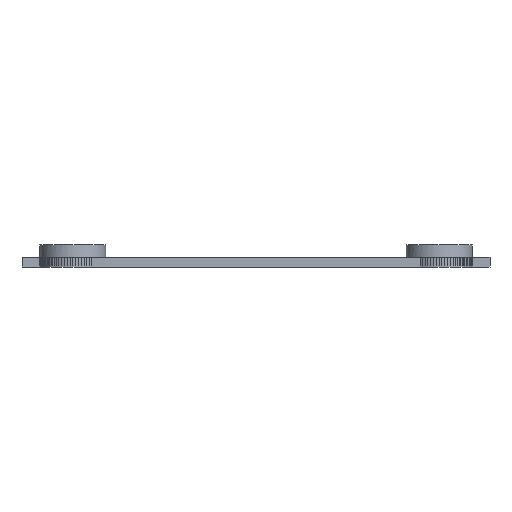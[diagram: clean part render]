
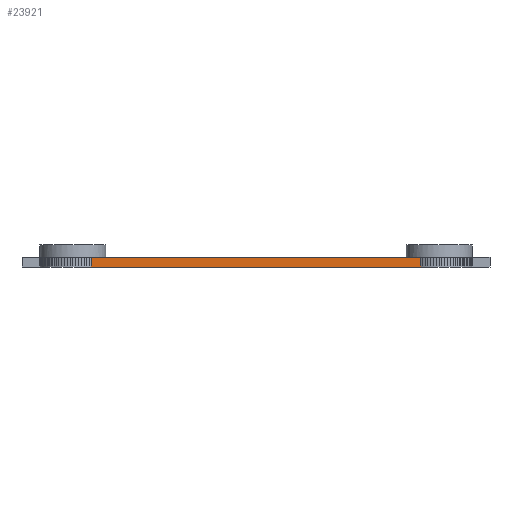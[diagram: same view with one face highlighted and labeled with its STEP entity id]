
A CAD part, left-side view. The second image highlights one B-rep face of the part: STEP entity #23921.
In plain terms, the highlighted planar face has unit normal (-1, 0, 0).
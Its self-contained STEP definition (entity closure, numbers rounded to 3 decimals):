
#72 = PLANE('',#73);
#73 = AXIS2_PLACEMENT_3D('',#74,#75,#76);
#74 = CARTESIAN_POINT('',(0.444,0.,0.35));
#75 = DIRECTION('',(-0.,-0.,-1.));
#76 = DIRECTION('',(-1.,0.,0.));
#154 = PLANE('',#155);
#155 = AXIS2_PLACEMENT_3D('',#156,#157,#158);
#156 = CARTESIAN_POINT('',(0.444,0.,
    0.));
#157 = DIRECTION('',(-0.,-0.,-1.));
#158 = DIRECTION('',(-1.,0.,0.));
#1271 = VERTEX_POINT('',#1272);
#1272 = CARTESIAN_POINT('',(-7.3,-5.988,0.));
#1286 = PLANE('',#1287);
#1287 = AXIS2_PLACEMENT_3D('',#1288,#1289,#1290);
#1288 = CARTESIAN_POINT('',(-7.339,-6.05,0.));
#1289 = DIRECTION('',(-0.843,0.537,0.));
#1290 = DIRECTION('',(0.537,0.843,0.));
#1298 = EDGE_CURVE('',#1271,#1299,#1301,.T.);
#1299 = VERTEX_POINT('',#1300);
#1300 = CARTESIAN_POINT('',(-7.3,5.988,0.));
#1301 = SURFACE_CURVE('',#1302,(#1306,#1313),.PCURVE_S1.);
#1302 = LINE('',#1303,#1304);
#1303 = CARTESIAN_POINT('',(-7.3,-5.988,0.));
#1304 = VECTOR('',#1305,1.);
#1305 = DIRECTION('',(0.,1.,0.));
#1306 = PCURVE('',#154,#1307);
#1307 = DEFINITIONAL_REPRESENTATION('',(#1308),#1312);
#1308 = LINE('',#1309,#1310);
#1309 = CARTESIAN_POINT('',(7.744,-5.988));
#1310 = VECTOR('',#1311,1.);
#1311 = DIRECTION('',(0.,1.));
#1312 = ( GEOMETRIC_REPRESENTATION_CONTEXT(2) 
PARAMETRIC_REPRESENTATION_CONTEXT() REPRESENTATION_CONTEXT('2D SPACE',''
  ) );
#1313 = PCURVE('',#1314,#1319);
#1314 = PLANE('',#1315);
#1315 = AXIS2_PLACEMENT_3D('',#1316,#1317,#1318);
#1316 = CARTESIAN_POINT('',(-7.3,-5.988,0.));
#1317 = DIRECTION('',(-1.,0.,0.));
#1318 = DIRECTION('',(0.,1.,0.));
#1319 = DEFINITIONAL_REPRESENTATION('',(#1320),#1324);
#1320 = LINE('',#1321,#1322);
#1321 = CARTESIAN_POINT('',(0.,0.));
#1322 = VECTOR('',#1323,1.);
#1323 = DIRECTION('',(1.,0.));
#1324 = ( GEOMETRIC_REPRESENTATION_CONTEXT(2) 
PARAMETRIC_REPRESENTATION_CONTEXT() REPRESENTATION_CONTEXT('2D SPACE',''
  ) );
#1342 = PLANE('',#1343);
#1343 = AXIS2_PLACEMENT_3D('',#1344,#1345,#1346);
#1344 = CARTESIAN_POINT('',(-7.3,5.988,0.));
#1345 = DIRECTION('',(-0.843,-0.537,0.));
#1346 = DIRECTION('',(-0.537,0.843,0.));
#14863 = VERTEX_POINT('',#14864);
#14864 = CARTESIAN_POINT('',(-7.3,-5.987,0.35));
#14890 = EDGE_CURVE('',#14863,#14891,#14893,.T.);
#14891 = VERTEX_POINT('',#14892);
#14892 = CARTESIAN_POINT('',(-7.3,5.987,0.35));
#14893 = SURFACE_CURVE('',#14894,(#14898,#14905),.PCURVE_S1.);
#14894 = LINE('',#14895,#14896);
#14895 = CARTESIAN_POINT('',(-7.3,-5.988,0.35));
#14896 = VECTOR('',#14897,1.);
#14897 = DIRECTION('',(0.,1.,0.));
#14898 = PCURVE('',#72,#14899);
#14899 = DEFINITIONAL_REPRESENTATION('',(#14900),#14904);
#14900 = LINE('',#14901,#14902);
#14901 = CARTESIAN_POINT('',(7.744,-5.988));
#14902 = VECTOR('',#14903,1.);
#14903 = DIRECTION('',(0.,1.));
#14904 = ( GEOMETRIC_REPRESENTATION_CONTEXT(2) 
PARAMETRIC_REPRESENTATION_CONTEXT() REPRESENTATION_CONTEXT('2D SPACE',''
  ) );
#14905 = PCURVE('',#1314,#14906);
#14906 = DEFINITIONAL_REPRESENTATION('',(#14907),#14911);
#14907 = LINE('',#14908,#14909);
#14908 = CARTESIAN_POINT('',(0.,-0.35));
#14909 = VECTOR('',#14910,1.);
#14910 = DIRECTION('',(1.,0.));
#14911 = ( GEOMETRIC_REPRESENTATION_CONTEXT(2) 
PARAMETRIC_REPRESENTATION_CONTEXT() REPRESENTATION_CONTEXT('2D SPACE',''
  ) );
#23873 = VERTEX_POINT('',#23874);
#23874 = CARTESIAN_POINT('',(-7.3,-5.988,0.35));
#23888 = PLANE('',#23889);
#23889 = AXIS2_PLACEMENT_3D('',#23890,#23891,#23892);
#23890 = CARTESIAN_POINT('',(-6.3,-6.65,0.35));
#23891 = DIRECTION('',(0.,0.,1.));
#23892 = DIRECTION('',(1.,0.,-0.));
#23900 = EDGE_CURVE('',#1271,#23873,#23901,.T.);
#23901 = SURFACE_CURVE('',#23902,(#23906,#23913),.PCURVE_S1.);
#23902 = LINE('',#23903,#23904);
#23903 = CARTESIAN_POINT('',(-7.3,-5.988,0.));
#23904 = VECTOR('',#23905,1.);
#23905 = DIRECTION('',(0.,0.,1.));
#23906 = PCURVE('',#1286,#23907);
#23907 = DEFINITIONAL_REPRESENTATION('',(#23908),#23912);
#23908 = LINE('',#23909,#23910);
#23909 = CARTESIAN_POINT('',(0.073,0.));
#23910 = VECTOR('',#23911,1.);
#23911 = DIRECTION('',(0.,-1.));
#23912 = ( GEOMETRIC_REPRESENTATION_CONTEXT(2) 
PARAMETRIC_REPRESENTATION_CONTEXT() REPRESENTATION_CONTEXT('2D SPACE',''
  ) );
#23913 = PCURVE('',#1314,#23914);
#23914 = DEFINITIONAL_REPRESENTATION('',(#23915),#23919);
#23915 = LINE('',#23916,#23917);
#23916 = CARTESIAN_POINT('',(0.,0.));
#23917 = VECTOR('',#23918,1.);
#23918 = DIRECTION('',(0.,-1.));
#23919 = ( GEOMETRIC_REPRESENTATION_CONTEXT(2) 
PARAMETRIC_REPRESENTATION_CONTEXT() REPRESENTATION_CONTEXT('2D SPACE',''
  ) );
#23921 = ADVANCED_FACE('',(#23922),#1314,.T.);
#23922 = FACE_BOUND('',#23923,.T.);
#23923 = EDGE_LOOP('',(#23924,#23925,#23946,#23947,#23975,#23996));
#23924 = ORIENTED_EDGE('',*,*,#23900,.T.);
#23925 = ORIENTED_EDGE('',*,*,#23926,.T.);
#23926 = EDGE_CURVE('',#23873,#14863,#23927,.T.);
#23927 = SURFACE_CURVE('',#23928,(#23932,#23939),.PCURVE_S1.);
#23928 = LINE('',#23929,#23930);
#23929 = CARTESIAN_POINT('',(-7.3,-5.988,0.35));
#23930 = VECTOR('',#23931,1.);
#23931 = DIRECTION('',(0.,1.,0.));
#23932 = PCURVE('',#1314,#23933);
#23933 = DEFINITIONAL_REPRESENTATION('',(#23934),#23938);
#23934 = LINE('',#23935,#23936);
#23935 = CARTESIAN_POINT('',(0.,-0.35));
#23936 = VECTOR('',#23937,1.);
#23937 = DIRECTION('',(1.,0.));
#23938 = ( GEOMETRIC_REPRESENTATION_CONTEXT(2) 
PARAMETRIC_REPRESENTATION_CONTEXT() REPRESENTATION_CONTEXT('2D SPACE',''
  ) );
#23939 = PCURVE('',#23888,#23940);
#23940 = DEFINITIONAL_REPRESENTATION('',(#23941),#23945);
#23941 = LINE('',#23942,#23943);
#23942 = CARTESIAN_POINT('',(-1.,0.662));
#23943 = VECTOR('',#23944,1.);
#23944 = DIRECTION('',(0.,1.));
#23945 = ( GEOMETRIC_REPRESENTATION_CONTEXT(2) 
PARAMETRIC_REPRESENTATION_CONTEXT() REPRESENTATION_CONTEXT('2D SPACE',''
  ) );
#23946 = ORIENTED_EDGE('',*,*,#14890,.T.);
#23947 = ORIENTED_EDGE('',*,*,#23948,.T.);
#23948 = EDGE_CURVE('',#14891,#23949,#23951,.T.);
#23949 = VERTEX_POINT('',#23950);
#23950 = CARTESIAN_POINT('',(-7.3,5.988,0.35));
#23951 = SURFACE_CURVE('',#23952,(#23956,#23963),.PCURVE_S1.);
#23952 = LINE('',#23953,#23954);
#23953 = CARTESIAN_POINT('',(-7.3,-5.988,0.35));
#23954 = VECTOR('',#23955,1.);
#23955 = DIRECTION('',(0.,1.,0.));
#23956 = PCURVE('',#1314,#23957);
#23957 = DEFINITIONAL_REPRESENTATION('',(#23958),#23962);
#23958 = LINE('',#23959,#23960);
#23959 = CARTESIAN_POINT('',(0.,-0.35));
#23960 = VECTOR('',#23961,1.);
#23961 = DIRECTION('',(1.,0.));
#23962 = ( GEOMETRIC_REPRESENTATION_CONTEXT(2) 
PARAMETRIC_REPRESENTATION_CONTEXT() REPRESENTATION_CONTEXT('2D SPACE',''
  ) );
#23963 = PCURVE('',#23964,#23969);
#23964 = PLANE('',#23965);
#23965 = AXIS2_PLACEMENT_3D('',#23966,#23967,#23968);
#23966 = CARTESIAN_POINT('',(-6.3,6.65,0.35));
#23967 = DIRECTION('',(0.,0.,1.));
#23968 = DIRECTION('',(1.,0.,-0.));
#23969 = DEFINITIONAL_REPRESENTATION('',(#23970),#23974);
#23970 = LINE('',#23971,#23972);
#23971 = CARTESIAN_POINT('',(-1.,-12.638));
#23972 = VECTOR('',#23973,1.);
#23973 = DIRECTION('',(0.,1.));
#23974 = ( GEOMETRIC_REPRESENTATION_CONTEXT(2) 
PARAMETRIC_REPRESENTATION_CONTEXT() REPRESENTATION_CONTEXT('2D SPACE',''
  ) );
#23975 = ORIENTED_EDGE('',*,*,#23976,.F.);
#23976 = EDGE_CURVE('',#1299,#23949,#23977,.T.);
#23977 = SURFACE_CURVE('',#23978,(#23982,#23989),.PCURVE_S1.);
#23978 = LINE('',#23979,#23980);
#23979 = CARTESIAN_POINT('',(-7.3,5.988,0.));
#23980 = VECTOR('',#23981,1.);
#23981 = DIRECTION('',(0.,0.,1.));
#23982 = PCURVE('',#1314,#23983);
#23983 = DEFINITIONAL_REPRESENTATION('',(#23984),#23988);
#23984 = LINE('',#23985,#23986);
#23985 = CARTESIAN_POINT('',(11.977,0.));
#23986 = VECTOR('',#23987,1.);
#23987 = DIRECTION('',(0.,-1.));
#23988 = ( GEOMETRIC_REPRESENTATION_CONTEXT(2) 
PARAMETRIC_REPRESENTATION_CONTEXT() REPRESENTATION_CONTEXT('2D SPACE',''
  ) );
#23989 = PCURVE('',#1342,#23990);
#23990 = DEFINITIONAL_REPRESENTATION('',(#23991),#23995);
#23991 = LINE('',#23992,#23993);
#23992 = CARTESIAN_POINT('',(0.,0.));
#23993 = VECTOR('',#23994,1.);
#23994 = DIRECTION('',(0.,-1.));
#23995 = ( GEOMETRIC_REPRESENTATION_CONTEXT(2) 
PARAMETRIC_REPRESENTATION_CONTEXT() REPRESENTATION_CONTEXT('2D SPACE',''
  ) );
#23996 = ORIENTED_EDGE('',*,*,#1298,.F.);
